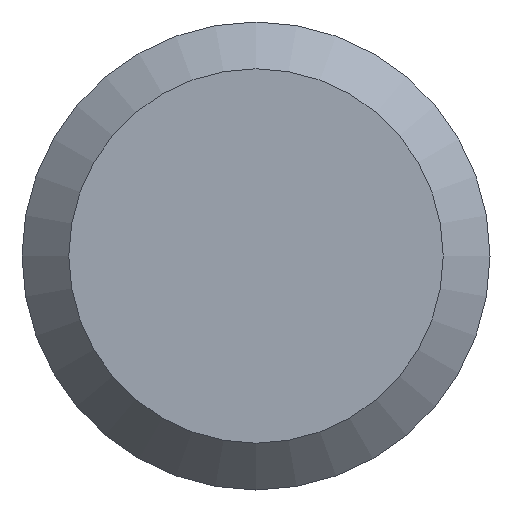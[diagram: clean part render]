
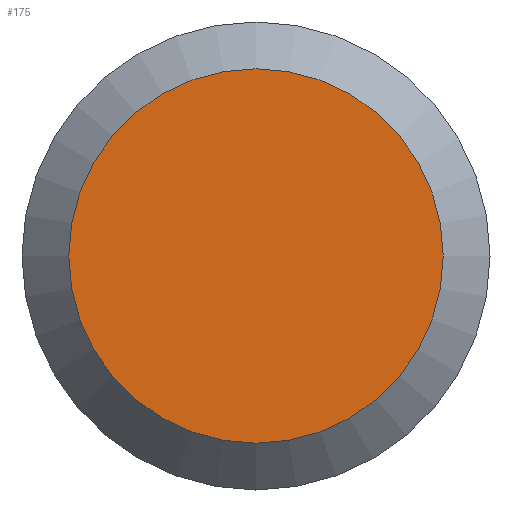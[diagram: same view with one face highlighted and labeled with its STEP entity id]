
A CAD part, left-side view. The second image highlights one B-rep face of the part: STEP entity #175.
In plain terms, the highlighted planar face has unit normal (-1, 0, 0).
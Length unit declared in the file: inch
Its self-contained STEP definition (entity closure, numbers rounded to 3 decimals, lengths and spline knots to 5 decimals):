
#2 = CARTESIAN_POINT ( 'NONE',  ( 0., 0., 0. ) ) ;
#33 = CIRCLE ( 'NONE', #35, 0.15 ) ;
#34 = FACE_OUTER_BOUND ( 'NONE', #141, .T. ) ;
#35 = AXIS2_PLACEMENT_3D ( 'NONE', #2, #160, #234 ) ;
#55 = VERTEX_POINT ( 'NONE', #239 ) ;
#60 = DIRECTION ( 'NONE',  ( 0., 0., -1. ) ) ;
#69 = PLANE ( 'NONE',  #197 ) ;
#77 = CARTESIAN_POINT ( 'NONE',  ( 0., 0.1875, 0. ) ) ;
#126 = DIRECTION ( 'NONE',  ( 1., 0., 0. ) ) ;
#139 = EDGE_CURVE ( 'NONE', #55, #55, #33, .T. ) ;
#141 = EDGE_LOOP ( 'NONE', ( #164 ) ) ;
#160 = DIRECTION ( 'NONE',  ( -1., 0., 0. ) ) ;
#164 = ORIENTED_EDGE ( 'NONE', *, *, #139, .T. ) ;
#175 = ADVANCED_FACE ( 'NONE', ( #34 ), #69, .F. ) ;
#197 = AXIS2_PLACEMENT_3D ( 'NONE', #77, #126, #60 ) ;
#234 = DIRECTION ( 'NONE',  ( 0., 0., -1. ) ) ;
#239 = CARTESIAN_POINT ( 'NONE',  ( 0., 0., -0.15 ) ) ;
